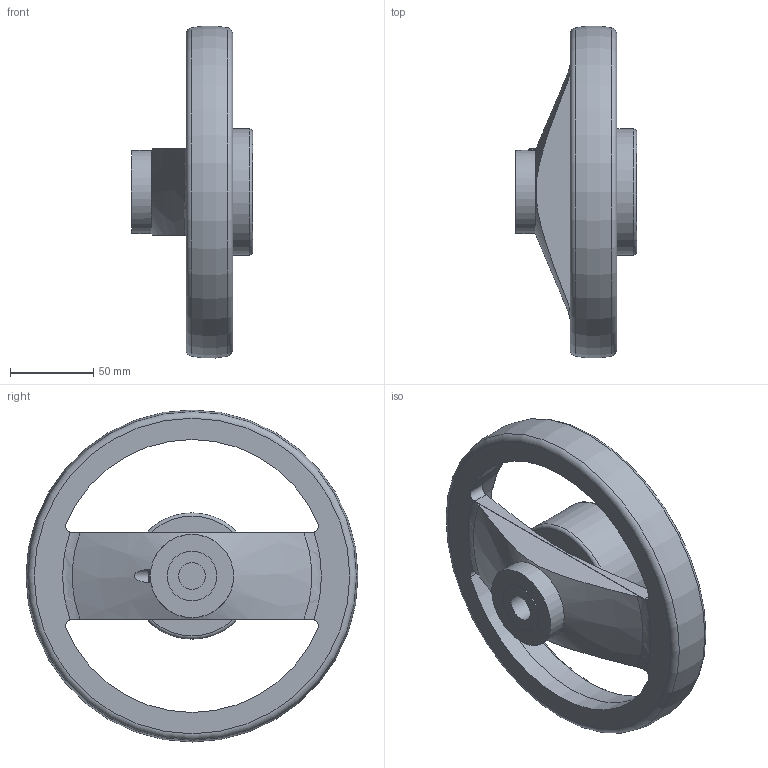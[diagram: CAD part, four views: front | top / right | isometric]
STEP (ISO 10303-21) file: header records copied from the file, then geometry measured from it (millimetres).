
FILE_DESCRIPTION( ( 'STEP AP203' ), '1' );
FILE_NAME( 'C:/Temp/Ganter_Step_05_03_2020/data/1_4/gn_522_8/gn_522_8_b/gn_522_8_b_a/Spoked handwheel GN 522.8-200-B16-A.stp', '2020-03-05T10:53:28', ( 'License CC BY-ND 4.0' ), ( 'CADENAS' ), ' ', 'PARTsolutions', ' ' );
FILE_SCHEMA( ( 'CONFIG_CONTROL_DESIGN' ) );
Length unit declared in the file: millimetre
Products named in the file (1): _Spoked handwheel GN 522.8-200-B16-A
Bounding box: 73 x 199.73 x 199.73 mm (x, y, z)
Volume: 467953.7 mm3; surface area: 96505.4 mm2
Topology: 1 solids, 1 shells, 61 faces, 136 edges, 88 vertices
Faces by surface type: plane 27, cylinder 20, torus 8, cone 6
Full cylindrical faces by diameter (mm): 6 x4, 8 x1, 16 x1, 30 x1, 50 x1, 67 x1, 68.8 x1, 76 x1
Entity records: 1903 total; most frequent: CARTESIAN_POINT 629, DIRECTION 260, ORIENTED_EDGE 210, AXIS2_PLACEMENT_3D 115, EDGE_CURVE 105, EDGE_LOOP 100, VERTEX_POINT 79, FACE_OUTER_BOUND 78
